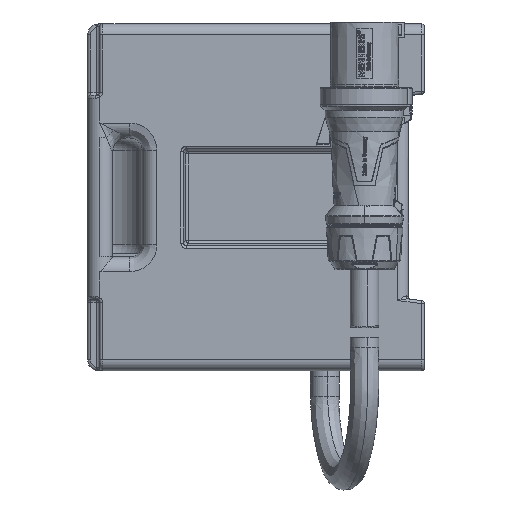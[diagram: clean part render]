
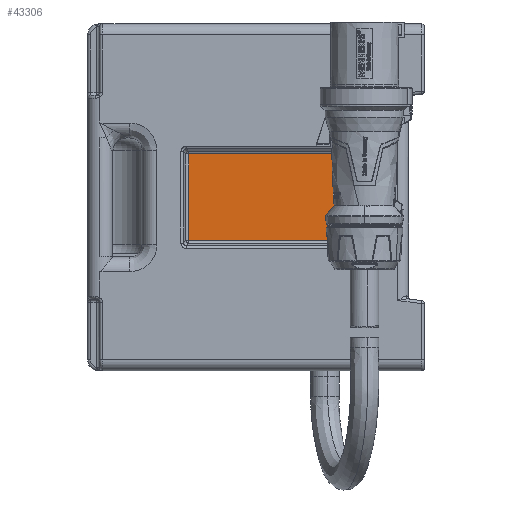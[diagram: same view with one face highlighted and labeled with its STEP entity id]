
A CAD part, left-side view. The second image highlights one B-rep face of the part: STEP entity #43306.
In plain terms, the highlighted planar face has unit normal (-1, 0, 0).
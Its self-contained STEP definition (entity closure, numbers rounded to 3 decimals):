
#8402=DIRECTION('',(0.,-1.,0.));
#8403=VECTOR('',#8402,185.799);
#8404=CARTESIAN_POINT('',(10.,237.899,131.101));
#8405=LINE('14608',#8404,#8403);
#8416=DIRECTION('',(0.,0.,-1.));
#8417=VECTOR('',#8416,87.799);
#8418=CARTESIAN_POINT('',(10.,237.899,218.899));
#8419=LINE('14611',#8418,#8417);
#8534=DIRECTION('',(0.,1.,0.));
#8535=VECTOR('',#8534,185.799);
#8536=CARTESIAN_POINT('',(10.,52.101,218.899));
#8537=LINE('14612',#8536,#8535);
#8607=DIRECTION('',(0.,0.,1.));
#8608=VECTOR('',#8607,87.799);
#8609=CARTESIAN_POINT('',(10.,52.101,131.101));
#8610=LINE('14613',#8609,#8608);
#29442=CARTESIAN_POINT('',(10.,237.899,131.101));
#29443=CARTESIAN_POINT('',(10.,52.101,131.101));
#29444=VERTEX_POINT('',#29442);
#29445=VERTEX_POINT('',#29443);
#29446=CARTESIAN_POINT('',(10.,237.899,218.899));
#29447=VERTEX_POINT('',#29446);
#29448=CARTESIAN_POINT('',(10.,52.101,218.899));
#29449=VERTEX_POINT('',#29448);
#43292=CARTESIAN_POINT('',(10.,170.,0.));
#43293=DIRECTION('',(1.,0.,0.));
#43294=DIRECTION('',(0.,0.,-1.));
#43295=AXIS2_PLACEMENT_3D('',#43292,#43293,#43294);
#43296=PLANE('17046',#43295);
#43297=ORIENTED_EDGE('14608',*,*,#43275,.F.);
#43299=ORIENTED_EDGE('14611',*,*,#43298,.F.);
#43301=ORIENTED_EDGE('14612',*,*,#43300,.F.);
#43303=ORIENTED_EDGE('14613',*,*,#43302,.F.);
#43304=EDGE_LOOP('17046',(#43297,#43299,#43301,#43303));
#43305=FACE_OUTER_BOUND('17046',#43304,.F.);
#43275=EDGE_CURVE('14608',#29444,#29445,#8405,.T.);
#43298=EDGE_CURVE('14611',#29447,#29444,#8419,.T.);
#43300=EDGE_CURVE('14612',#29449,#29447,#8537,.T.);
#43302=EDGE_CURVE('14613',#29445,#29449,#8610,.T.);
#43306=ADVANCED_FACE('17046',(#43305),#43296,.F.);
